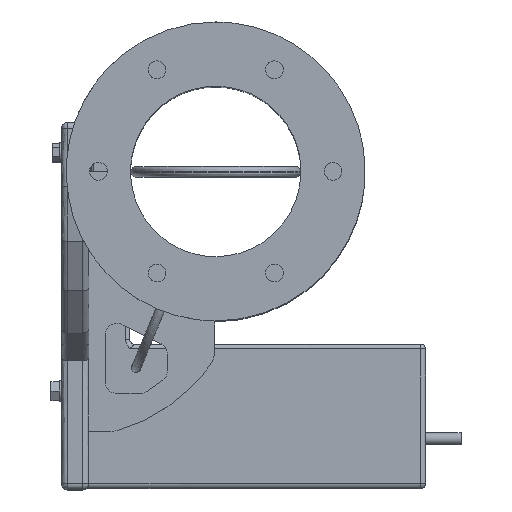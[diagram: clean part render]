
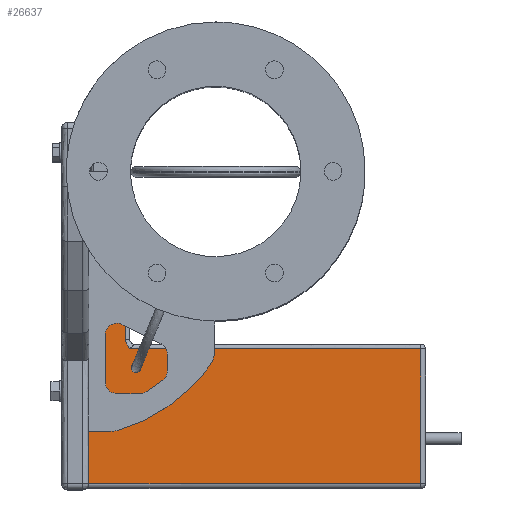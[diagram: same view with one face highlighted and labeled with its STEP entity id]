
A CAD part, top view. The second image highlights one B-rep face of the part: STEP entity #26637.
In plain terms, the highlighted free-form (B-spline) face has degree [1, 1] with [2, 2] control points.
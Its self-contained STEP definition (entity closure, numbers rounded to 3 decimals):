
#26327=CARTESIAN_POINT('',(-53.635,-131.827,34.973));
#26328=VERTEX_POINT('',#26327);
#26335=CARTESIAN_POINT('',(-53.635,-58.569,34.979));
#26336=VERTEX_POINT('',#26335);
#26337=CARTESIAN_POINT('',(-53.635,-58.569,34.979));
#26338=CARTESIAN_POINT('',(-53.635,-131.827,34.973));
#26339=B_SPLINE_CURVE_WITH_KNOTS('',1,(#26337,#26338),.POLYLINE_FORM.,.F.,.U.,(2,2),(0.,1.),.UNSPECIFIED.);
#26340=EDGE_CURVE('',#26336,#26328,#26339,.T.);
#26557=CARTESIAN_POINT('',(86.665,-131.827,34.973));
#26558=VERTEX_POINT('',#26557);
#26565=CARTESIAN_POINT('',(-53.635,-131.827,34.973));
#26566=CARTESIAN_POINT('',(86.665,-131.827,34.973));
#26567=B_SPLINE_CURVE_WITH_KNOTS('',1,(#26565,#26566),.POLYLINE_FORM.,.F.,.U.,(2,2),(0.,0.986),.UNSPECIFIED.);
#26568=EDGE_CURVE('',#26328,#26558,#26567,.T.);
#26573=CARTESIAN_POINT('',(-53.635,-58.569,34.979));
#26574=CARTESIAN_POINT('',(88.665,-58.569,34.979));
#26575=CARTESIAN_POINT('',(-53.635,-131.827,34.973));
#26576=CARTESIAN_POINT('',(88.665,-131.827,34.973));
#26577=B_SPLINE_SURFACE_WITH_KNOTS('',1,1,((#26573,#26574),(#26575,#26576)),.PLANE_SURF.,.F.,.F.,.U.,(2,2),(2,2),(0.,1.),(0.,1.),.UNSPECIFIED.);
#26578=ORIENTED_EDGE('',*,*,#26340,.T.);
#26579=ORIENTED_EDGE('',*,*,#26568,.T.);
#26580=CARTESIAN_POINT('',(86.665,-74.827,34.977));
#26581=VERTEX_POINT('',#26580);
#26582=CARTESIAN_POINT('',(86.665,-131.827,34.973));
#26583=CARTESIAN_POINT('',(86.665,-74.827,34.977));
#26584=B_SPLINE_CURVE_WITH_KNOTS('',1,(#26582,#26583),.POLYLINE_FORM.,.F.,.U.,(2,2),(0.07,0.794),.UNSPECIFIED.);
#26585=EDGE_CURVE('',#26558,#26581,#26584,.T.);
#26586=ORIENTED_EDGE('',*,*,#26585,.T.);
#26587=CARTESIAN_POINT('',(-36.335,-74.827,34.977));
#26588=VERTEX_POINT('',#26587);
#26589=CARTESIAN_POINT('',(-36.335,-74.827,34.977));
#26590=CARTESIAN_POINT('',(86.665,-74.827,34.977));
#26591=B_SPLINE_CURVE_WITH_KNOTS('',1,(#26589,#26590),.POLYLINE_FORM.,.F.,.U.,(2,2),(0.,0.984),.UNSPECIFIED.);
#26592=EDGE_CURVE('',#26588,#26581,#26591,.T.);
#26593=ORIENTED_EDGE('',*,*,#26592,.F.);
#26594=CARTESIAN_POINT('',(-38.335,-70.827,34.978));
#26595=VERTEX_POINT('',#26594);
#26596=CARTESIAN_POINT('',(-36.335,-74.827,34.977));
#26597=CARTESIAN_POINT('',(-36.46,-74.75,34.977));
#26598=CARTESIAN_POINT('',(-36.773,-74.341,34.977));
#26599=CARTESIAN_POINT('',(-37.226,-73.55,34.978));
#26600=CARTESIAN_POINT('',(-37.45,-73.117,34.978));
#26601=CARTESIAN_POINT('',(-37.595,-72.825,34.978));
#26602=CARTESIAN_POINT('',(-37.809,-72.383,34.978));
#26603=CARTESIAN_POINT('',(-38.179,-71.529,34.978));
#26604=CARTESIAN_POINT('',(-38.335,-71.,34.978));
#26605=CARTESIAN_POINT('',(-38.335,-70.827,34.978));
#26606=B_SPLINE_CURVE_WITH_KNOTS('',3,(#26596,#26597,#26598,#26599,#26600,#26601,#26602,#26603,#26604,#26605),.UNSPECIFIED.,.F.,.U.,(4,1,1,2,1,1,4),(0.,0.25,0.417,0.5,0.583,0.75,1.),.UNSPECIFIED.);
#26607=EDGE_CURVE('',#26588,#26595,#26606,.T.);
#26608=ORIENTED_EDGE('',*,*,#26607,.T.);
#26609=CARTESIAN_POINT('',(-38.335,-58.569,34.979));
#26610=VERTEX_POINT('',#26609);
#26611=CARTESIAN_POINT('',(-38.335,-58.569,34.979));
#26612=CARTESIAN_POINT('',(-38.335,-70.827,34.978));
#26613=B_SPLINE_CURVE_WITH_KNOTS('',1,(#26611,#26612),.POLYLINE_FORM.,.F.,.U.,(2,2),(0.125,0.244),.UNSPECIFIED.);
#26614=EDGE_CURVE('',#26610,#26595,#26613,.T.);
#26615=ORIENTED_EDGE('',*,*,#26614,.F.);
#26616=CARTESIAN_POINT('',(-53.635,-58.569,34.979));
#26617=CARTESIAN_POINT('',(-38.335,-58.569,34.979));
#26618=B_SPLINE_CURVE_WITH_KNOTS('',1,(#26616,#26617),.POLYLINE_FORM.,.F.,.U.,(2,2),(0.,0.884),.UNSPECIFIED.);
#26619=EDGE_CURVE('',#26336,#26610,#26618,.T.);
#26620=ORIENTED_EDGE('',*,*,#26619,.F.);
#26621=EDGE_LOOP('',(#26578,#26579,#26586,#26593,#26608,#26615,#26620));
#26622=FACE_OUTER_BOUND('',#26621,.T.);
#26623=CARTESIAN_POINT('',(-33.635,-84.827,34.977));
#26624=VERTEX_POINT('',#26623);
#26625=CARTESIAN_POINT('',(-33.635,-84.827,34.977));
#26626=CARTESIAN_POINT('',(-30.171,-84.827,34.977));
#26627=CARTESIAN_POINT('',(-31.903,-81.827,34.977));
#26628=CARTESIAN_POINT('',(-33.635,-78.827,34.977));
#26629=CARTESIAN_POINT('',(-35.367,-81.827,34.977));
#26630=CARTESIAN_POINT('',(-37.099,-84.827,34.977));
#26631=CARTESIAN_POINT('',(-33.635,-84.827,34.977));
#26632=(BOUNDED_CURVE()B_SPLINE_CURVE(2,(#26625,#26626,#26627,#26628,#26629,#26630,#26631),.CIRCULAR_ARC.,.T.,.U.)B_SPLINE_CURVE_WITH_KNOTS((3,2,2,3),(0.,0.333,0.667,1.),.UNSPECIFIED.)CURVE()GEOMETRIC_REPRESENTATION_ITEM()RATIONAL_B_SPLINE_CURVE((1.,0.5,1.,0.5,1.,0.5,1.))REPRESENTATION_ITEM(''));
#26633=EDGE_CURVE('',#26624,#26624,#26632,.T.);
#26634=ORIENTED_EDGE('',*,*,#26633,.F.);
#26635=EDGE_LOOP('',(#26634));
#26636=FACE_BOUND('',#26635,.T.);
#26637=ADVANCED_FACE('',(#26622,#26636),#26577,.T.);
